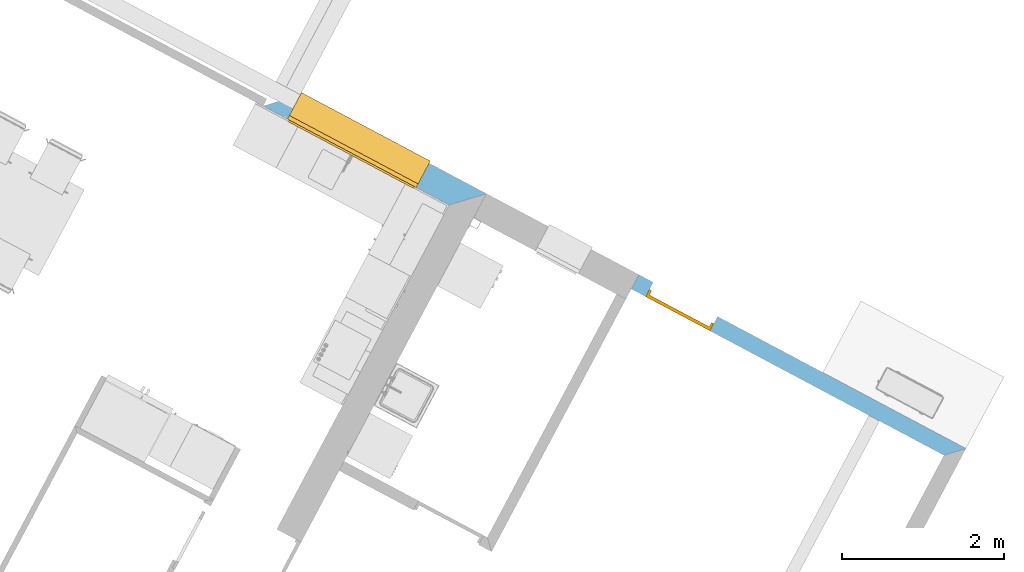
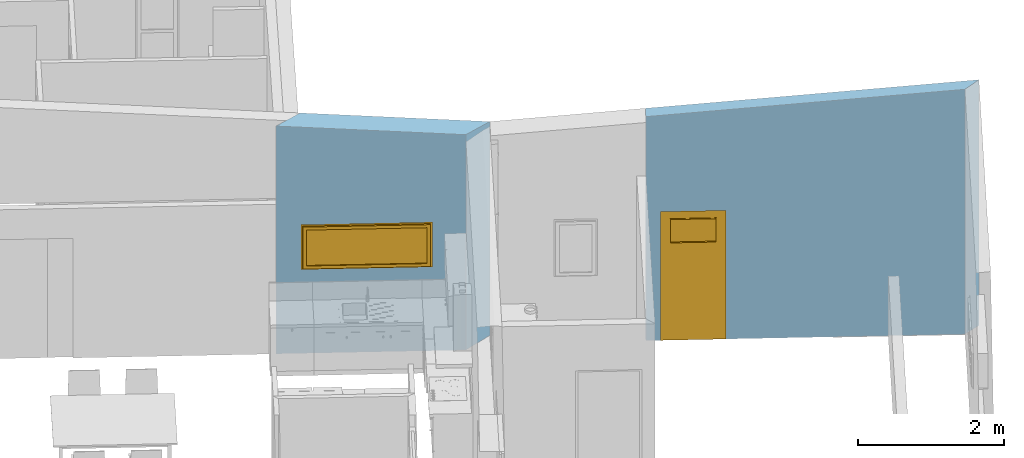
# One storey, part 13 of 27: 1 door, 1 window, 2 openings, plus 2 elements that do not belong to this part.
"""IFC2X3 building model written with IfcOpenShell, lengths in metres."""

from ifc_helpers import new_model, entity, si_unit, converted_unit, derived_unit, money_unit, direction, frame, origin_with_axes, origin_2d_with_axis, place, context, subcontext, project, spatial, polyline, rectangle, outline, extrude, clip, halfspace, bounded_halfspace, open_shell, faceted_brep, surface_model, material, layer, layer_set, layer_usage, type_object, element, fill, save


model = new_model("IFC2X3")

# Units and contexts
model_context = context("Model", 3, precision=1e-05, world=origin_with_axes(), true_north=direction((0.0, 1.0)))
body_context = subcontext(model_context, "Body", "Model", "MODEL_VIEW")
ifc_project = project(units=[si_unit("LENGTHUNIT", "METRE"), si_unit("AREAUNIT", "SQUARE_METRE"), si_unit("VOLUMEUNIT", "CUBIC_METRE"), converted_unit("PLANEANGLEUNIT", "DEGREE", entity("IfcPlaneAngleMeasure", 0.0174532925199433), si_unit("PLANEANGLEUNIT", "RADIAN"), dimensions=[0, 0, 0, 0, 0, 0, 0]), money_unit("CHF"), converted_unit("TIMEUNIT", "Year", entity("IfcTimeMeasure", 31557600.0), si_unit("TIMEUNIT", "SECOND"), dimensions=[0, 0, 1, 0, 0, 0, 0]), si_unit("MASSUNIT", "GRAM", prefix="KILO"), si_unit("THERMODYNAMICTEMPERATUREUNIT", "DEGREE_CELSIUS"), si_unit("LUMINOUSINTENSITYUNIT", "LUMEN"), si_unit("ENERGYUNIT", "JOULE", prefix="MEGA"), derived_unit("THERMALCONDUCTANCEUNIT", [(si_unit("POWERUNIT", "WATT"), 1), (si_unit("LENGTHUNIT", "METRE"), -1), (si_unit("THERMODYNAMICTEMPERATUREUNIT", "KELVIN"), -1)]), derived_unit("SPECIFICHEATCAPACITYUNIT", [(si_unit("ENERGYUNIT", "JOULE"), 1), (si_unit("MASSUNIT", "GRAM", prefix="KILO"), -1), (si_unit("THERMODYNAMICTEMPERATUREUNIT", "KELVIN"), -1)]), derived_unit("MASSDENSITYUNIT", [(si_unit("MASSUNIT", "GRAM", prefix="KILO"), 1), (si_unit("VOLUMEUNIT", "CUBIC_METRE"), -1)])], contexts=[model_context])

# Site, building, storey
site_placement = place(None, frame((0.0, 0.0, 0.0), z_axis=(0.0, 0.0, 1.0), x_axis=(-0.4694715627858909, -0.8829475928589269, 0.0)))
site = spatial("IfcSite", under=ifc_project, at=site_placement, Name="Site", CompositionType="ELEMENT")
building_placement = place(site_placement, origin_with_axes())
building = spatial("IfcBuilding", under=site, at=building_placement, Name="Bâtiment", CompositionType="ELEMENT")
storey_placement = place(building_placement, origin_with_axes())
storey = spatial("IfcBuildingStorey", under=building, at=storey_placement, Name="RDC", CompositionType="ELEMENT", Elevation=0.0)

# Wall, opening, window
ifc_material_1 = material(Name="Maçonnerie 290464332")
ifc_layer_1 = layer(ifc_material_1, 0.2, ventilated="UNKNOWN")
ifc_material_2 = material(Name="Isolation 272048125")
ifc_layer_2 = layer(ifc_material_2, 0.14, ventilated="UNKNOWN")
ifc_layer_set_1 = layer_set([ifc_layer_1, ifc_layer_2], Name="MUR EXT 34 0024849982")
ifc_layer_usage_1 = layer_usage(ifc_layer_set_1, "AXIS2", "POSITIVE", 0.0)
wall_type_1 = type_object("IfcWallType", Name="MUR EXT 34 0024849982 340", PredefinedType="NOTDEFINED")
wall_1_placement = place(storey_placement, frame((133.6895710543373, -828.6945991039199, 0.0), z_axis=(0.0, 0.0, 1.0), x_axis=(0.0, -1.0, 0.0)))
wall_1 = element("IfcWallStandardCase", 1, at=wall_1_placement, inside=storey, type_object=wall_type_1, material=ifc_layer_usage_1, Name="Mur-391", context=body_context, shape_type="Clipping", body=[
    clip(extrude(outline(polyline([(0.0, 0.0), (2.600000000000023, 0.0), (2.940000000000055, 0.3400000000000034), (0.3400000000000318, 0.3400000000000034), (0.0, 0.0)])), origin_with_axes(), (0.0, 0.0, 1.0), 5.0), bounded_halfspace(frame((-0.2839427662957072, 0.0, 3.54928457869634), z_axis=(0.07974522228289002, 0.0, -0.9968152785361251), x_axis=(0.0, 1.0, 0.0)), True, origin_with_axes(), polyline([(0.0, -0.01), (9.600009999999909, -0.01), (9.600009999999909, 0.3500000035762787), (0.0, 0.3500000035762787), (0.0, -0.01)]))),
])
opening_1_placement = place(wall_1_placement, frame((1.699999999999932, 0.0, 1.4), z_axis=(0.0, 0.0, 1.0), x_axis=(1.0, 0.0, 0.0)))
opening_1 = element("IfcOpeningElement", 2, at=opening_1_placement, cuts=wall_1, Name="Fen-157", context=body_context, shape_type="SweptSolid", body=[
    extrude(rectangle(XDim=1.799999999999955, YDim=0.7499999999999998, at=origin_2d_with_axis()), frame((0.0, -0.3400000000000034, 0.375), z_axis=(0.0, -1.0, 0.0), x_axis=(1.0, 0.0, 0.0)), (0.0, 0.0, -1.0), 1.02),
])
window_style = type_object("IfcWindowStyle", Name="Fen châssis simple 10", ConstructionType="NOTDEFINED", OperationType="SINGLE_PANEL", ParameterTakesPrecedence=False, Sizeable=False)
window_placement = place(opening_1_placement, frame((0.900000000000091, 0.0, 0.0), z_axis=(0.0, 0.0, 1.0), x_axis=(-1.0, 0.0, 0.0)))
window = element("IfcWindow", 3, at=window_placement, inside=storey, type_object=window_style, Name="Fen-157", OverallHeight=0.75, OverallWidth=1.8, context=body_context, shape_type="SurfaceModel", body=[
    faceted_brep([(0.0, -0.289999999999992, 0.0), (0.0, -0.289999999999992, 0.02499999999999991), (0.0, 0.0, 0.009801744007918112), (0.0, 0.0, 0.0), (1.799999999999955, -0.289999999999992, 0.0), (1.799999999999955, -0.289999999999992, 0.02499999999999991), (1.799999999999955, 0.0, 0.009801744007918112), (1.799999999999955, 0.03000000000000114, 0.008229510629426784), (0.0, 0.03000000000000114, 0.008229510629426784), (0.0, 0.03000000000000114, 0.0), (1.799999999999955, 0.03000000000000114, 0.0), (1.799999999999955, 0.0, 0.0)], [[[0, 1, 2, 3]], [[4, 5, 1, 0]], [[1, 5, 6, 7, 8, 2]], [[3, 2, 8, 9]], [[0, 3, 9, 10, 11, 4]], [[11, 6, 5, 4]], [[10, 7, 6, 11]], [[9, 8, 7, 10]]]),
    faceted_brep([(1.75, -0.3400000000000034, 0.6999999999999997), (1.799999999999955, -0.3400000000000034, 0.6999999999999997), (1.799999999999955, -0.289999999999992, 0.6999999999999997), (1.75, -0.289999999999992, 0.6999999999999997), (1.75, -0.3400000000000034, 0.05000000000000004), (1.799999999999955, -0.3400000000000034, 0.05000000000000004), (1.799999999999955, -0.289999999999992, 0.05000000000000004), (1.75, -0.289999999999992, 0.05000000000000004)], [[[0, 1, 2, 3]], [[4, 5, 1, 0]], [[1, 5, 6, 2]], [[2, 6, 7, 3]], [[4, 0, 3, 7]], [[5, 4, 7, 6]]]),
    faceted_brep([(0.04999999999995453, -0.3400000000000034, 0.05000000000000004), (0.0, -0.3400000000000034, 0.05000000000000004), (0.0, -0.289999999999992, 0.05000000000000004), (0.04999999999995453, -0.289999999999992, 0.05000000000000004), (0.04999999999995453, -0.3400000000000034, 0.6999999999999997), (0.0, -0.3400000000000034, 0.6999999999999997), (0.0, -0.289999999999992, 0.6999999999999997), (0.04999999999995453, -0.289999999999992, 0.6999999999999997)], [[[0, 1, 2, 3]], [[4, 5, 1, 0]], [[1, 5, 6, 2]], [[2, 6, 7, 3]], [[4, 0, 3, 7]], [[5, 4, 7, 6]]]),
    faceted_brep([(0.04999999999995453, -0.3400000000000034, 0.6999999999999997), (0.0, -0.3400000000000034, 0.6999999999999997), (0.0, -0.289999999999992, 0.6999999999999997), (0.04999999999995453, -0.289999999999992, 0.6999999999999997), (1.75, -0.3400000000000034, 0.6999999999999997), (1.799999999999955, -0.3400000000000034, 0.6999999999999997), (1.799999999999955, -0.3400000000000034, 0.75), (0.0, -0.3400000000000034, 0.75), (0.0, -0.289999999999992, 0.75), (1.799999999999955, -0.289999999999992, 0.75), (1.799999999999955, -0.289999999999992, 0.6999999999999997), (1.75, -0.289999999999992, 0.6999999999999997)], [[[0, 1, 2, 3]], [[4, 5, 6, 7, 1, 0]], [[1, 7, 8, 2]], [[2, 8, 9, 10, 11, 3]], [[4, 0, 3, 11]], [[5, 4, 11, 10]], [[6, 5, 10, 9]], [[7, 6, 9, 8]]]),
    faceted_brep([(1.75, -0.3400000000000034, 0.05000000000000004), (1.799999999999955, -0.3400000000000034, 0.05000000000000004), (1.799999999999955, -0.289999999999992, 0.05000000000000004), (1.75, -0.289999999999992, 0.05000000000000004), (0.04999999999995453, -0.3400000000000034, 0.05000000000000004), (0.0, -0.3400000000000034, 0.05000000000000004), (0.0, -0.3400000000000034, 0.0), (1.799999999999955, -0.3400000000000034, 0.0), (1.799999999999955, -0.289999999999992, 0.0), (0.0, -0.289999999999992, 0.0), (0.0, -0.289999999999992, 0.05000000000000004), (0.04999999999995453, -0.289999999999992, 0.05000000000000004)], [[[0, 1, 2, 3]], [[4, 5, 6, 7, 1, 0]], [[1, 7, 8, 2]], [[2, 8, 9, 10, 11, 3]], [[4, 0, 3, 11]], [[5, 4, 11, 10]], [[6, 5, 10, 9]], [[7, 6, 9, 8]]]),
    faceted_brep([(0.07499999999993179, -0.3149999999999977, 0.07499999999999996), (0.07499999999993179, -0.3149999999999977, 0.6749999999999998), (0.07499999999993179, -0.3649999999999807, 0.6749999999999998), (0.07499999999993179, -0.3649999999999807, 0.07499999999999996), (0.02499999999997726, -0.3149999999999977, 0.07499999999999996), (0.02499999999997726, -0.3149999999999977, 0.6749999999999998), (0.02499999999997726, -0.3649999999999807, 0.6749999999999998), (0.02499999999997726, -0.3649999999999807, 0.07499999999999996)], [[[0, 1, 2, 3]], [[0, 4, 5, 1]], [[1, 5, 6, 2]], [[3, 2, 6, 7]], [[4, 0, 3, 7]], [[5, 4, 7, 6]]]),
    faceted_brep([(1.774999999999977, -0.3149999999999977, 0.07499999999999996), (1.774999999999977, -0.3149999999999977, 0.6749999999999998), (1.774999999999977, -0.3649999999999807, 0.6749999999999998), (1.774999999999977, -0.3649999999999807, 0.07499999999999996), (1.725000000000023, -0.3149999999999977, 0.07499999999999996), (1.725000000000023, -0.3149999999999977, 0.6749999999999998), (1.725000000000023, -0.3649999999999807, 0.6749999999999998), (1.725000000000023, -0.3649999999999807, 0.07499999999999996)], [[[0, 1, 2, 3]], [[0, 4, 5, 1]], [[1, 5, 6, 2]], [[3, 2, 6, 7]], [[4, 0, 3, 7]], [[5, 4, 7, 6]]]),
    faceted_brep([(1.774999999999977, -0.3149999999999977, 0.02499999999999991), (1.774999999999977, -0.3149999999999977, 0.07499999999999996), (1.774999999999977, -0.3649999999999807, 0.07499999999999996), (1.774999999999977, -0.3649999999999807, 0.02499999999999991), (0.02499999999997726, -0.3149999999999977, 0.02499999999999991), (0.02499999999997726, -0.3149999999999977, 0.07499999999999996), (0.07499999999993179, -0.3149999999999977, 0.07499999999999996), (1.725000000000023, -0.3149999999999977, 0.07499999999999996), (1.725000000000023, -0.3649999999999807, 0.07499999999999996), (0.07499999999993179, -0.3649999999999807, 0.07499999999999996), (0.02499999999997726, -0.3649999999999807, 0.07499999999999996), (0.02499999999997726, -0.3649999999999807, 0.02499999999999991)], [[[0, 1, 2, 3]], [[0, 4, 5, 6, 7, 1]], [[1, 7, 8, 2]], [[3, 2, 8, 9, 10, 11]], [[4, 0, 3, 11]], [[5, 4, 11, 10]], [[6, 5, 10, 9]], [[7, 6, 9, 8]]]),
    faceted_brep([(0.02499999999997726, -0.3149999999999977, 0.7250000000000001), (0.02499999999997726, -0.3149999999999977, 0.6749999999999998), (0.02499999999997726, -0.3649999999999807, 0.6749999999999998), (0.02499999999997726, -0.3649999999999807, 0.7250000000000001), (1.774999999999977, -0.3149999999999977, 0.7250000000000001), (1.774999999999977, -0.3149999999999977, 0.6749999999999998), (1.725000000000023, -0.3149999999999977, 0.6749999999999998), (0.07499999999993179, -0.3149999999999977, 0.6749999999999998), (0.07499999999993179, -0.3649999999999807, 0.6749999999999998), (1.725000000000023, -0.3649999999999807, 0.6749999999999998), (1.774999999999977, -0.3649999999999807, 0.6749999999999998), (1.774999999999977, -0.3649999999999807, 0.7250000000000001)], [[[0, 1, 2, 3]], [[0, 4, 5, 6, 7, 1]], [[1, 7, 8, 2]], [[3, 2, 8, 9, 10, 11]], [[4, 0, 3, 11]], [[5, 4, 11, 10]], [[6, 5, 10, 9]], [[7, 6, 9, 8]]]),
    surface_model("IfcShellBasedSurfaceModel", [(0.07499999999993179, -0.3299999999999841, 0.07499999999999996), (0.07499999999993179, -0.3299999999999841, 0.6749999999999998), (1.725000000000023, -0.3299999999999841, 0.6749999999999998), (1.725000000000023, -0.3299999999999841, 0.07499999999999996)], [open_shell([[[0, 1, 2, 3]]])]),
    surface_model("IfcShellBasedSurfaceModel", [(0.07499999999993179, -0.3499999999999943, 0.07499999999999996), (1.725000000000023, -0.3499999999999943, 0.07499999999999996), (1.725000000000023, -0.3499999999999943, 0.6749999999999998), (0.07499999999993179, -0.3499999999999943, 0.6749999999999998)], [open_shell([[[0, 1, 2, 3]]])]),
])
fill(opening_1, window)

# Wall, opening, door
ifc_layer_3 = layer(ifc_material_1, 0.2, ventilated="UNKNOWN")
ifc_layer_set_2 = layer_set([ifc_layer_3], Name="MUR EXT 20 0024849982")
ifc_layer_usage_2 = layer_usage(ifc_layer_set_2, "AXIS2", "NEGATIVE", 0.0)
wall_type_2 = type_object("IfcWallType", Name="MUR EXT 20 0024849982 200", PredefinedType="NOTDEFINED")
wall_2_placement = place(storey_placement, frame((133.6895710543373, -826.5645991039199, 0.0), z_axis=(0.0, 0.0, 1.0), x_axis=(0.0, 1.0, 0.0)))
wall_2 = element("IfcWallStandardCase", 4, at=wall_2_placement, inside=storey, type_object=wall_type_2, material=ifc_layer_usage_2, Name="Mur-395", context=body_context, shape_type="Clipping", body=[
    clip(extrude(outline(polyline([(0.0, -0.1999999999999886), (4.370000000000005, -0.1999999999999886), (4.57000000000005, 0.0), (0.0, 0.0), (0.0, -0.1999999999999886)])), origin_with_axes(), (0.0, 0.0, 1.0), 5.0), halfspace(frame((-0.2974880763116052, 0.0, 3.718600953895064), z_axis=(0.07974522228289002, 0.0, -0.9968152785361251), x_axis=(0.0, 1.0, 0.0)), True)),
])
opening_2_placement = place(wall_2_placement, frame((0.6499999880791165, 0.0, 0.0), z_axis=(0.0, 0.0, 1.0), x_axis=(1.0, 0.0, 0.0)))
opening_2 = element("IfcOpeningElement", 5, at=opening_2_placement, cuts=wall_2, Name="porte 75", context=body_context, shape_type="SweptSolid", body=[
    extrude(rectangle(XDim=0.8999999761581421, YDim=2.15, at=origin_2d_with_axis()), frame((0.0, 0.1999999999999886, 1.075), z_axis=(0.0, -1.0, 0.0), x_axis=(-1.0, 0.0, 0.0)), (0.0, 0.0, 1.0), 0.6000000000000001),
])
door_style = type_object("IfcDoorStyle", Name="P_métallique 10", ConstructionType="NOTDEFINED", OperationType="SINGLE_SWING_RIGHT", ParameterTakesPrecedence=False, Sizeable=False)
door_placement = place(opening_2_placement, frame((0.449999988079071, 0.0, 0.0), z_axis=(0.0, 0.0, 1.0), x_axis=(-1.0, 0.0, 0.0)))
door = element("IfcDoor", 6, at=door_placement, inside=storey, type_object=door_style, Name="porte 75", OverallHeight=2.15, OverallWidth=0.9, context=body_context, shape_type="Brep", body=[
    faceted_brep([(0.03200000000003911, 0.1599999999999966, 0.0), (0.03200000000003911, 0.1599999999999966, 2.118), (0.03200000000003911, 0.09999999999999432, 2.118), (0.03200000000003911, 0.09999999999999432, 0.0), (0.01999999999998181, 0.1599999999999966, 2.118), (0.01999999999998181, 0.1599999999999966, 0.0), (0.01999999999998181, 0.1999999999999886, 2.118), (0.0, 0.1999999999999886, 2.118), (0.0, 0.09999999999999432, 2.118), (0.0, 0.09999999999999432, 0.0), (0.0, 0.1999999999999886, 0.0), (0.01999999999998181, 0.1999999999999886, 0.0)], [[[0, 1, 2, 3]], [[4, 1, 0, 5]], [[4, 6, 7, 8, 2, 1]], [[2, 8, 9, 3]], [[5, 0, 3, 9, 10, 11]], [[6, 4, 5, 11]], [[6, 11, 10, 7]], [[10, 9, 8, 7]]]),
    faceted_brep([(0.8799999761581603, 0.1599999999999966, 2.118), (0.867999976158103, 0.1599999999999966, 2.118), (0.867999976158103, 0.09999999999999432, 2.118), (0.8999999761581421, 0.09999999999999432, 2.118), (0.8999999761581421, 0.1999999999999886, 2.118), (0.8799999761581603, 0.1999999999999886, 2.118), (0.8799999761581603, 0.1599999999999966, 0.0), (0.867999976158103, 0.1599999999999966, 0.0), (0.867999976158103, 0.09999999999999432, 0.0), (0.8999999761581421, 0.09999999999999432, 0.0), (0.8999999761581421, 0.1999999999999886, 0.0), (0.8799999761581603, 0.1999999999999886, 0.0)], [[[0, 1, 2, 3, 4, 5]], [[1, 0, 6, 7]], [[1, 7, 8, 2]], [[3, 2, 8, 9]], [[4, 3, 9, 10]], [[11, 5, 4, 10]], [[0, 5, 11, 6]], [[6, 11, 10, 9, 8, 7]]]),
    faceted_brep([(0.01999999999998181, 0.1999999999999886, 2.13), (0.01999999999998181, 0.1999999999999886, 2.118), (0.0, 0.1999999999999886, 2.118), (0.0, 0.1999999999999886, 2.15), (0.8999999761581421, 0.1999999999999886, 2.15), (0.8999999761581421, 0.1999999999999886, 2.118), (0.8799999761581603, 0.1999999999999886, 2.118), (0.8799999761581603, 0.1999999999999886, 2.13), (0.01999999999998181, 0.1599999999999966, 2.13), (0.01999999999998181, 0.1599999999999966, 2.118), (0.03200000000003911, 0.1599999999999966, 2.118), (0.03200000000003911, 0.09999999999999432, 2.118), (0.0, 0.09999999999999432, 2.118), (0.0, 0.09999999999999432, 2.15), (0.8999999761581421, 0.09999999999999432, 2.15), (0.8999999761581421, 0.09999999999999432, 2.118), (0.8799999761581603, 0.1599999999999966, 2.118), (0.867999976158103, 0.09999999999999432, 2.118), (0.867999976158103, 0.1599999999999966, 2.118), (0.8799999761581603, 0.1599999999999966, 2.13)], [[[0, 1, 2, 3, 4, 5, 6, 7]], [[1, 0, 8, 9]], [[9, 10, 11, 12, 2, 1]], [[2, 12, 13, 3]], [[3, 13, 14, 4]], [[4, 14, 15, 5]], [[16, 6, 5, 15, 17, 18]], [[7, 6, 16, 19]], [[0, 7, 19, 8]], [[16, 18, 10, 9, 8, 19]], [[10, 18, 17, 11]], [[17, 15, 14, 13, 12, 11]]]),
    faceted_brep([(0.01999999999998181, 0.1999999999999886, 0.0), (0.8799999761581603, 0.1999999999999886, 0.0), (0.8799999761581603, 0.1599999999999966, 0.0), (0.01999999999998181, 0.1599999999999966, 0.0), (0.01999999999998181, 0.1999999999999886, 2.13), (0.8799999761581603, 0.1999999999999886, 2.13), (0.1399999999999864, 0.1999999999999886, 1.629999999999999), (0.7619999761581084, 0.1999999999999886, 1.629999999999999), (0.7619999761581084, 0.1999999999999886, 2.02), (0.1399999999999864, 0.1999999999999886, 2.02), (0.8799999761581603, 0.1599999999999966, 2.13), (0.01999999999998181, 0.1599999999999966, 2.13), (0.1399999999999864, 0.1599999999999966, 1.629999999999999), (0.1399999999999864, 0.1599999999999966, 2.02), (0.7619999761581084, 0.1599999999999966, 2.02), (0.7619999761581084, 0.1599999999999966, 1.629999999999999)], [[[0, 1, 2, 3]], [[0, 4, 5, 1], [6, 7, 8, 9]], [[1, 5, 10, 2]], [[3, 2, 10, 11], [12, 13, 14, 15]], [[4, 0, 3, 11]], [[5, 4, 11, 10]], [[7, 6, 12, 15]], [[8, 7, 15, 14]], [[9, 8, 14, 13]], [[6, 9, 13, 12]]]),
    faceted_brep([(0.1399999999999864, 0.1850000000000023, 1.629999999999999), (0.7619999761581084, 0.1850000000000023, 1.629999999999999), (0.7619999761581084, 0.1749999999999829, 1.629999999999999), (0.1399999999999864, 0.1749999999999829, 1.629999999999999), (0.1399999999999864, 0.1850000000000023, 2.02), (0.7619999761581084, 0.1850000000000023, 2.02), (0.7619999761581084, 0.1749999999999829, 2.02), (0.1399999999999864, 0.1749999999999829, 2.02)], [[[0, 1, 2, 3]], [[0, 4, 5, 1]], [[1, 5, 6, 2]], [[3, 2, 6, 7]], [[4, 0, 3, 7]], [[5, 4, 7, 6]]]),
    faceted_brep([(0.1299999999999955, 0.2099999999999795, 1.62), (0.7719999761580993, 0.2099999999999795, 1.62), (0.7719999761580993, 0.1999999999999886, 1.62), (0.1299999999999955, 0.1999999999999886, 1.62), (0.1299999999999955, 0.2099999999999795, 2.03), (0.7719999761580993, 0.2099999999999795, 2.03), (0.1399999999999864, 0.2099999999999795, 1.629999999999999), (0.7619999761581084, 0.2099999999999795, 1.629999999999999), (0.7619999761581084, 0.2099999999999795, 2.02), (0.1399999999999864, 0.2099999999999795, 2.02), (0.7719999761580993, 0.1999999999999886, 2.03), (0.1299999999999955, 0.1999999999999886, 2.03), (0.1399999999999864, 0.1999999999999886, 1.629999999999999), (0.1399999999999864, 0.1999999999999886, 2.02), (0.7619999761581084, 0.1999999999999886, 2.02), (0.7619999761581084, 0.1999999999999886, 1.629999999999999)], [[[0, 1, 2, 3]], [[0, 4, 5, 1], [6, 7, 8, 9]], [[1, 5, 10, 2]], [[3, 2, 10, 11], [12, 13, 14, 15]], [[4, 0, 3, 11]], [[5, 4, 11, 10]], [[7, 6, 12, 15]], [[8, 7, 15, 14]], [[9, 8, 14, 13]], [[6, 9, 13, 12]]]),
    faceted_brep([(0.1299999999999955, 0.1599999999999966, 1.62), (0.7719999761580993, 0.1599999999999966, 1.62), (0.7719999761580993, 0.1499999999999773, 1.62), (0.1299999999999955, 0.1499999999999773, 1.62), (0.1299999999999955, 0.1599999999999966, 2.03), (0.7719999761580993, 0.1599999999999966, 2.03), (0.1399999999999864, 0.1599999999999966, 1.629999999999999), (0.7619999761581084, 0.1599999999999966, 1.629999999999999), (0.7619999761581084, 0.1599999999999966, 2.02), (0.1399999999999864, 0.1599999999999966, 2.02), (0.7719999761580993, 0.1499999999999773, 2.03), (0.1299999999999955, 0.1499999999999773, 2.03), (0.1399999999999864, 0.1499999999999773, 1.629999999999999), (0.1399999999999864, 0.1499999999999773, 2.02), (0.7619999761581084, 0.1499999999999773, 2.02), (0.7619999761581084, 0.1499999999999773, 1.629999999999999)], [[[0, 1, 2, 3]], [[0, 4, 5, 1], [6, 7, 8, 9]], [[1, 5, 10, 2]], [[3, 2, 10, 11], [12, 13, 14, 15]], [[4, 0, 3, 11]], [[5, 4, 11, 10]], [[7, 6, 12, 15]], [[8, 7, 15, 14]], [[9, 8, 14, 13]], [[6, 9, 13, 12]]]),
])
fill(opening_2, door)

save(model, "model.ifc")
